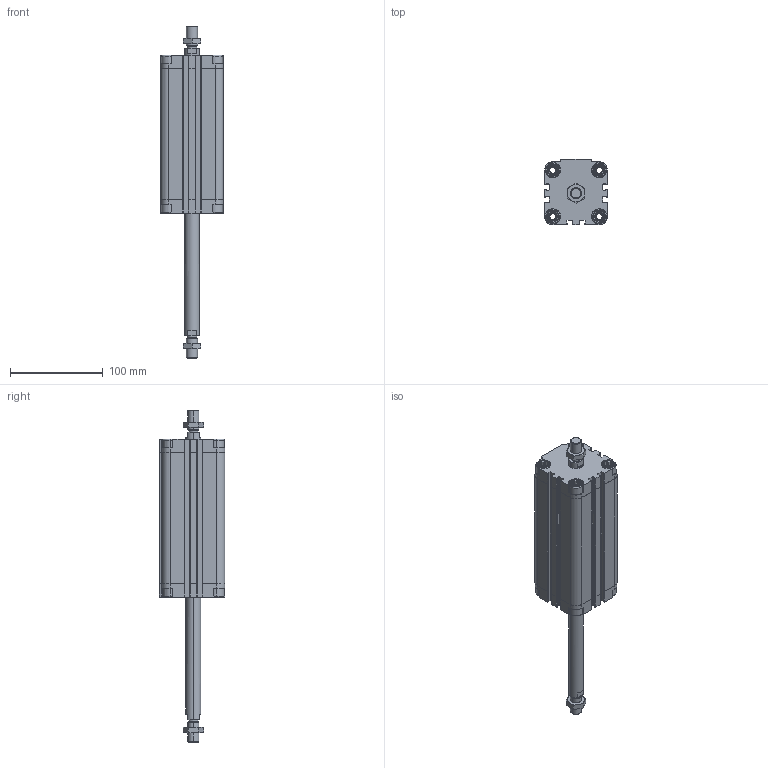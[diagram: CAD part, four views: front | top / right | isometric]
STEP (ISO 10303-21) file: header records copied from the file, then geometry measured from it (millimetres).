
FILE_DESCRIPTION (( 'STEP AP203' ), '1' );
FILE_NAME ('CDVU50-125M-P.STEP', '2020-07-21T15:20:06', ( '' ), ( '' ), 'SwSTEP 2.0', 'SolidWorks 2019', '' );
FILE_SCHEMA (( 'CONFIG_CONTROL_DESIGN' ));
Length unit declared in the file: millimetre
Products named in the file (1): CDVU50-125M-P
Bounding box: 68 x 71 x 358.5 mm (x, y, z)
Volume: 519894.3 mm3; surface area: 140962.1 mm2
Topology: 4 solids, 4 shells, 758 faces, 2004 edges, 1290 vertices
Faces by surface type: plane 438, cylinder 240, cone 64, torus 16
Entity records: 24259 total; most frequent: CARTESIAN_POINT 5321, ORIENTED_EDGE 4000, DIRECTION 3878, EDGE_CURVE 2000, AXIS2_PLACEMENT_3D 1335, VERTEX_POINT 1290, VECTOR 1208, LINE 1208
